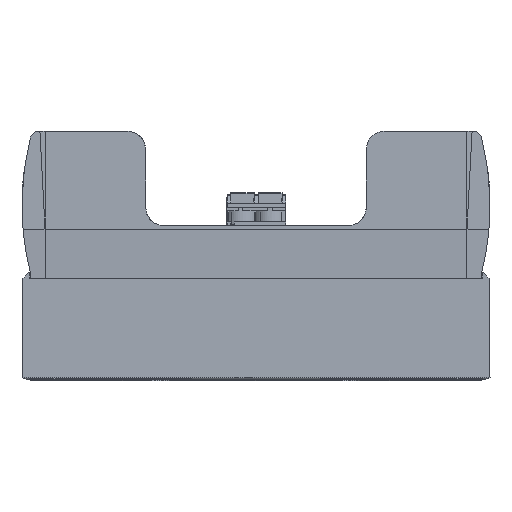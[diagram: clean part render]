
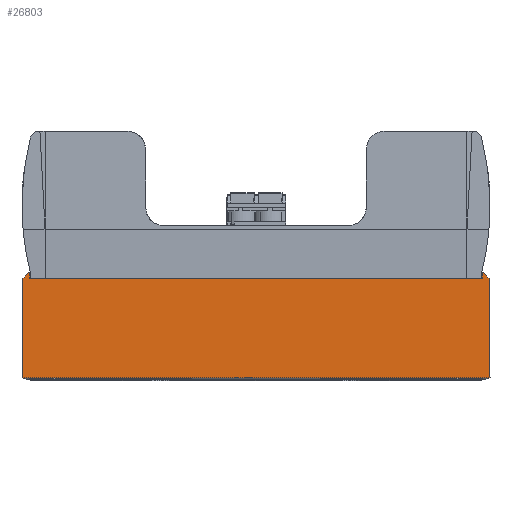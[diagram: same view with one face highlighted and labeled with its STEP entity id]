
A CAD part, left-side view. The second image highlights one B-rep face of the part: STEP entity #26803.
In plain terms, the highlighted planar face has unit normal (-1, 0, 0.009).
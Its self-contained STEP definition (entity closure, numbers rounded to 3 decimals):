
#1967=FACE_OUTER_BOUND('',#3409,.T.);
#3409=EDGE_LOOP('',(#17119,#17120,#17121,#17122,#17123,#17124,#17125,#17126,
#17127,#17128,#17129,#17130));
#5044=LINE('',#38381,#7744);
#5049=LINE('',#38390,#7749);
#5059=LINE('',#38411,#7759);
#5063=LINE('',#38419,#7763);
#5064=LINE('',#38421,#7764);
#5065=LINE('',#38422,#7765);
#5066=LINE('',#38424,#7766);
#5067=LINE('',#38426,#7767);
#5068=LINE('',#38428,#7768);
#5069=LINE('',#38430,#7769);
#5070=LINE('',#38432,#7770);
#5071=LINE('',#38433,#7771);
#7744=VECTOR('',#30756,1.);
#7749=VECTOR('',#30763,1.);
#7759=VECTOR('',#30779,1.);
#7763=VECTOR('',#30785,1.);
#7764=VECTOR('',#30786,1.);
#7765=VECTOR('',#30787,1.);
#7766=VECTOR('',#30788,1.);
#7767=VECTOR('',#30789,1.);
#7768=VECTOR('',#30790,1.);
#7769=VECTOR('',#30791,1.);
#7770=VECTOR('',#30792,1.);
#7771=VECTOR('',#30793,1.);
#10439=VERTEX_POINT('',#38377);
#10441=VERTEX_POINT('',#38380);
#10443=VERTEX_POINT('',#38386);
#10452=VERTEX_POINT('',#38409);
#10454=VERTEX_POINT('',#38417);
#10455=VERTEX_POINT('',#38418);
#10456=VERTEX_POINT('',#38420);
#10457=VERTEX_POINT('',#38423);
#10458=VERTEX_POINT('',#38425);
#10459=VERTEX_POINT('',#38427);
#10460=VERTEX_POINT('',#38429);
#10461=VERTEX_POINT('',#38431);
#13025=EDGE_CURVE('',#10441,#10439,#5044,.T.);
#13030=EDGE_CURVE('',#10441,#10443,#5049,.T.);
#13040=EDGE_CURVE('',#10452,#10439,#5059,.T.);
#13044=EDGE_CURVE('',#10454,#10455,#5063,.T.);
#13045=EDGE_CURVE('',#10456,#10454,#5064,.T.);
#13046=EDGE_CURVE('',#10456,#10443,#5065,.T.);
#13047=EDGE_CURVE('',#10452,#10457,#5066,.T.);
#13048=EDGE_CURVE('',#10457,#10458,#5067,.T.);
#13049=EDGE_CURVE('',#10459,#10458,#5068,.T.);
#13050=EDGE_CURVE('',#10459,#10460,#5069,.T.);
#13051=EDGE_CURVE('',#10461,#10460,#5070,.T.);
#13052=EDGE_CURVE('',#10461,#10455,#5071,.T.);
#17119=ORIENTED_EDGE('',*,*,#13044,.F.);
#17120=ORIENTED_EDGE('',*,*,#13045,.F.);
#17121=ORIENTED_EDGE('',*,*,#13046,.T.);
#17122=ORIENTED_EDGE('',*,*,#13030,.F.);
#17123=ORIENTED_EDGE('',*,*,#13025,.T.);
#17124=ORIENTED_EDGE('',*,*,#13040,.F.);
#17125=ORIENTED_EDGE('',*,*,#13047,.T.);
#17126=ORIENTED_EDGE('',*,*,#13048,.T.);
#17127=ORIENTED_EDGE('',*,*,#13049,.F.);
#17128=ORIENTED_EDGE('',*,*,#13050,.T.);
#17129=ORIENTED_EDGE('',*,*,#13051,.F.);
#17130=ORIENTED_EDGE('',*,*,#13052,.T.);
#24490=PLANE('',#28311);
#26803=ADVANCED_FACE('',(#1967),#24490,.T.);
#28311=AXIS2_PLACEMENT_3D('',#38416,#30783,#30784);
#30756=DIRECTION('',(-0.006,0.707,-0.707));
#30763=DIRECTION('',(0.,-1.,0.));
#30779=DIRECTION('',(0.009,-0.009,1.));
#30783=DIRECTION('center_axis',(-1.,0.,
0.009));
#30784=DIRECTION('ref_axis',(0.,-1.,0.));
#30785=DIRECTION('',(0.,-1.,0.));
#30786=DIRECTION('',(0.,-1.,0.));
#30787=DIRECTION('',(0.009,0.009,1.));
#30788=DIRECTION('',(0.,-1.,0.));
#30789=DIRECTION('',(0.009,0.009,1.));
#30790=DIRECTION('',(-0.006,-0.707,-0.707));
#30791=DIRECTION('',(0.,1.,0.));
#30792=DIRECTION('',(0.009,-0.009,1.));
#30793=DIRECTION('',(0.,1.,0.));
#38377=CARTESIAN_POINT('',(-11.052,39.852,17.5));
#38380=CARTESIAN_POINT('',(-11.043,38.852,18.5));
#38381=CARTESIAN_POINT('',(-11.049,39.57,17.782));
#38386=CARTESIAN_POINT('',(-11.043,38.661,18.5));
#38390=CARTESIAN_POINT('',(-11.043,39.852,18.5));
#38409=CARTESIAN_POINT('',(-11.2,40.,0.5));
#38411=CARTESIAN_POINT('',(-11.073,39.873,15.048));
#38416=CARTESIAN_POINT('Origin',(-11.132,-20.007,8.25));
#38417=CARTESIAN_POINT('',(-11.052,38.262,17.5));
#38418=CARTESIAN_POINT('',(-11.052,-38.262,17.5));
#38419=CARTESIAN_POINT('',(-11.052,-1.003,17.5));
#38420=CARTESIAN_POINT('',(-11.052,38.653,17.5));
#38421=CARTESIAN_POINT('',(-11.052,-1.003,17.5));
#38422=CARTESIAN_POINT('',(-11.052,38.653,17.505));
#38423=CARTESIAN_POINT('',(-11.2,-40.,0.5));
#38424=CARTESIAN_POINT('',(-11.2,39.25,0.5));
#38425=CARTESIAN_POINT('',(-11.052,-39.852,17.5));
#38426=CARTESIAN_POINT('',(-11.073,-39.873,15.048));
#38427=CARTESIAN_POINT('',(-11.043,-38.852,18.5));
#38428=CARTESIAN_POINT('',(-11.049,-39.57,17.782));
#38429=CARTESIAN_POINT('',(-11.043,-38.661,18.5));
#38430=CARTESIAN_POINT('',(-11.043,-39.852,18.5));
#38431=CARTESIAN_POINT('',(-11.052,-38.653,17.5));
#38432=CARTESIAN_POINT('',(-11.052,-38.653,17.505));
#38433=CARTESIAN_POINT('',(-11.052,1.003,17.5));
